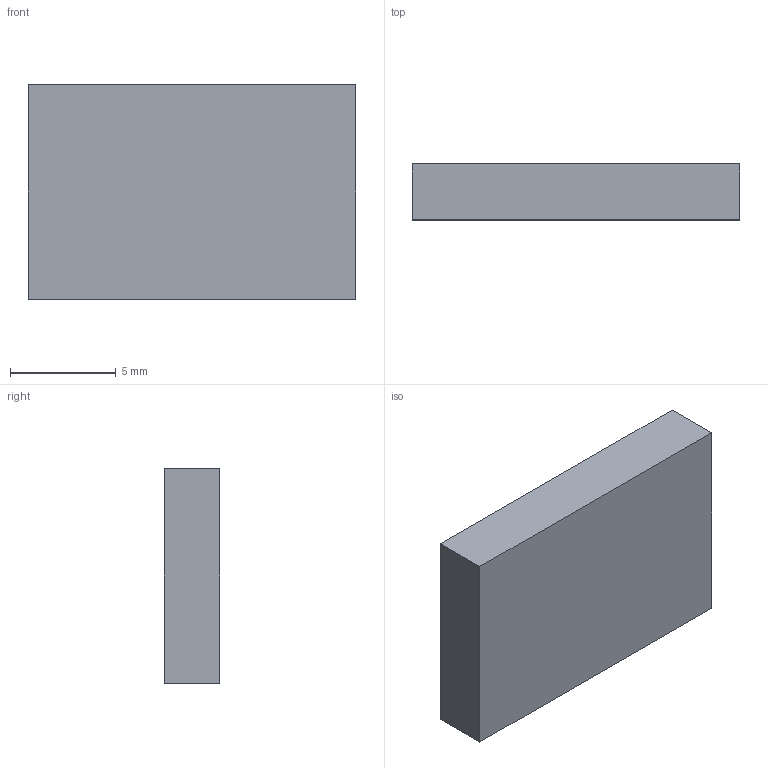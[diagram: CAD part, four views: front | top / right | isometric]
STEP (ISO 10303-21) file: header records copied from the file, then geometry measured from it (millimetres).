
FILE_DESCRIPTION(/* description */ (''),/* implementation_level */ '2;1');
FILE_NAME(/* name */ 'C:/Users/Ryan/Documents/AIO Robotics/CAD Files/ThumbSecondJoint.step',/* time_stamp */ '2017-02-04T20:55:30-08:00',/* author */ (''),/* organization */ (''),/* preprocessor_version */ 'ST-DEVELOPER v16.5',/* originating_system */ 'Autodesk Translation Framework v5.2.0.2920',/* authorisation */ '');
FILE_SCHEMA (('AUTOMOTIVE_DESIGN { 1 0 10303 214 3 1 1 }'));
Length unit declared in the file: inch
Products named in the file (1): FingerJoint v9
Bounding box: 15.49 x 2.64 x 10.16 mm (x, y, z)
Volume: 415.8 mm3; surface area: 450.4 mm2
Topology: 1 solids, 1 shells, 6 faces, 12 edges, 8 vertices
Faces by surface type: plane 6
Entity records: 180 total; most frequent: CARTESIAN_POINT 27, DIRECTION 26, ORIENTED_EDGE 24, LINE 12, VECTOR 12, EDGE_CURVE 12, VERTEX_POINT 8, AXIS2_PLACEMENT_3D 7
